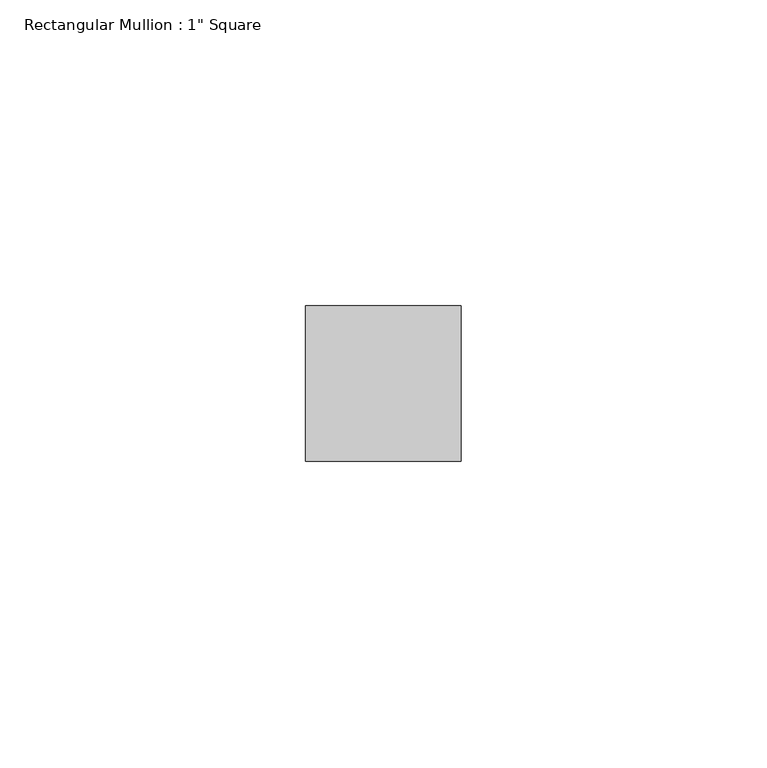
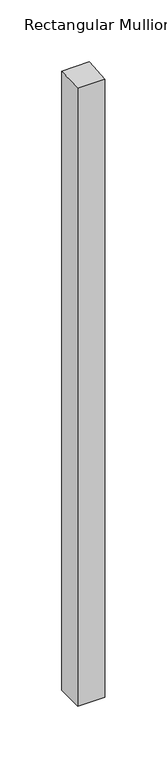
"""IFC4 building model written with IfcOpenShell, lengths in millimetres: member geometry."""

from ifc_helpers import new_model, si_unit, origin, place, context, project, spatial, faceted_brep, source, transform, mapped, element, save


def member_b799f41d(model_context):
    return source(origin(), model_context, "Body", "Brep", [
        faceted_brep([(0.0, 12.7, -609.6), (0.0, -12.7, -609.6), (-25.4, -12.7, -609.6), (-25.4, 12.7, -609.6), (-25.4, 12.7, 0.6668915), (0.0, 12.7, 0.7573906), (-25.4, -12.7, -0.8478897), (0.0, -12.7, -0.7573906)], [[[0, 1, 2, 3]], [[4, 5, 0, 3]], [[6, 4, 3, 2]], [[7, 6, 2, 1]], [[5, 7, 1, 0]], [[5, 4, 6, 7]]]),
    ])


if __name__ == "__main__":
    model = new_model("IFC4")
    model_context = context("Model", 3, world=origin())
    ifc_project = project(units=[si_unit("LENGTHUNIT", "METRE", prefix="MILLI")], contexts=[model_context])
    site = spatial("IfcSite", under=ifc_project)
    building = spatial("IfcBuilding", under=site)
    placement = place(None, origin())
    member_shape = member_b799f41d(model_context)
    element("IfcMember", 1, ObjectType="Rectangular Mullion : 1\" Square", at=placement, inside=building, context=model_context, shape_type="MappedRepresentation", body=[
        mapped(member_shape, transform((0.0, 0.0, 0.0), x_axis=(1.0, 0.0, 0.0), y_axis=(0.0, 1.0, 0.0), z_axis=(0.0, 0.0, 1.0))),
    ])
    save(model, "model.ifc")
